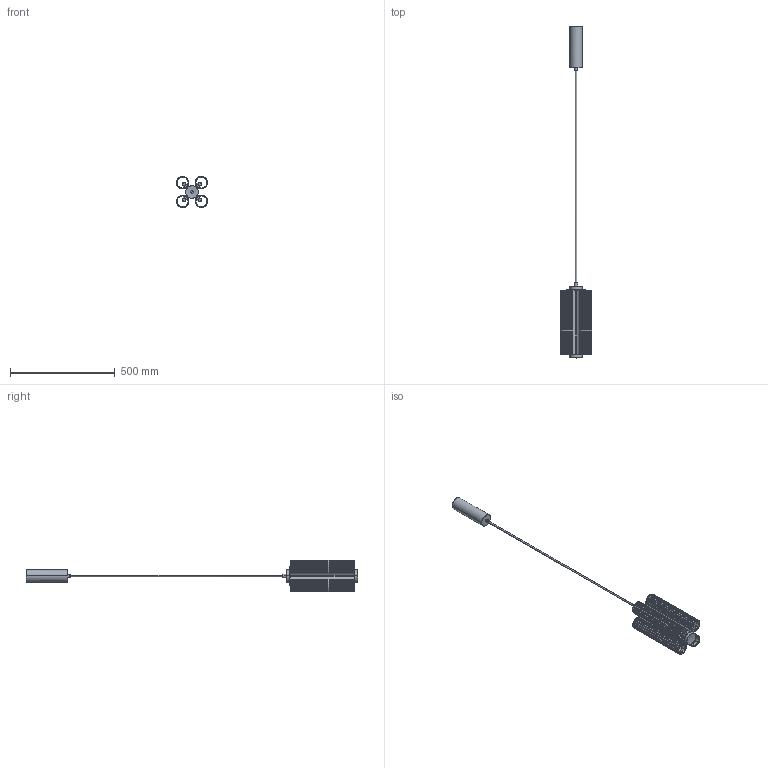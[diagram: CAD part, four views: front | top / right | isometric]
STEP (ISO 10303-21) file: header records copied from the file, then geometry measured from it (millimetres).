
FILE_DESCRIPTION (( 'STEP AP214' ), '1' );
FILE_NAME ('RYST_C1359_S.STEP', '2026-08-28T07:33:16', ( '' ), ( '' ), 'SwSTEP 2.0', 'SolidWorks 2023', '' );
FILE_SCHEMA (( 'AUTOMOTIVE_DESIGN' ));
Length unit declared in the file: millimetre
Products named in the file (1): RYST_C1359_S
Bounding box: 149.27 x 1588.51 x 149.28 mm (x, y, z)
Surface area: 934394.5 mm2 (no closed solid volume)
Topology: 0 solids, 21 shells, 937 faces, 2684 edges, 1764 vertices
Faces by surface type: bspline 653, cylinder 276, plane 8
Entity records: 35758 total; most frequent: CARTESIAN_POINT 17052, ORIENTED_EDGE 5332, EDGE_CURVE 2682, DIRECTION 1950, VERTEX_POINT 1764, B_SPLINE_CURVE_WITH_KNOTS 1339, EDGE_LOOP 979, ADVANCED_FACE 937
